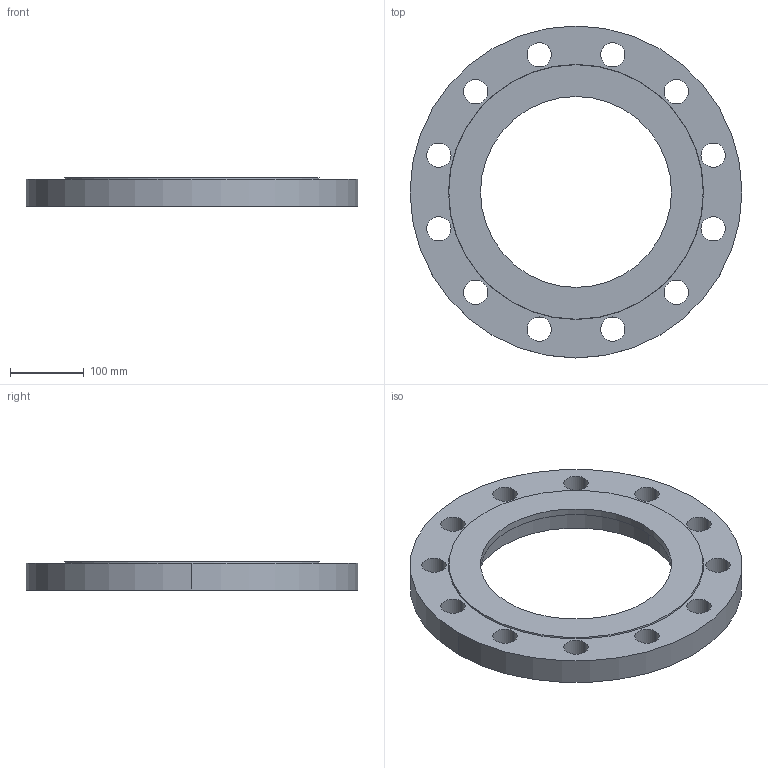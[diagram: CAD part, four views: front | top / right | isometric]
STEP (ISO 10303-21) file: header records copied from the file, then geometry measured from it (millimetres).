
FILE_DESCRIPTION (( 'STEP AP214' ), '1' );
FILE_NAME ('PN40 DN250 Type 05 - Socket (Type B) - Not in Standard.STEP', '2019-01-05T16:35:38', ( '' ), ( '' ), 'SwSTEP 2.0', 'SolidWorks 2019', '' );
FILE_SCHEMA (( 'AUTOMOTIVE_DESIGN' ));
Length unit declared in the file: millimetre
Products named in the file (1): PN40 DN250 Type 05 - Socket (Type B) - Not in Standard
Bounding box: 450 x 450 x 38 mm (x, y, z)
Volume: 3332377 mm3; surface area: 322332.7 mm2
Topology: 1 solids, 1 shells, 36 faces, 96 edges, 64 vertices
Faces by surface type: cylinder 30, plane 4, cone 2
Entity records: 1250 total; most frequent: DIRECTION 234, CARTESIAN_POINT 197, ORIENTED_EDGE 192, AXIS2_PLACEMENT_3D 101, EDGE_CURVE 96, CIRCLE 64, EDGE_LOOP 64, VERTEX_POINT 64
